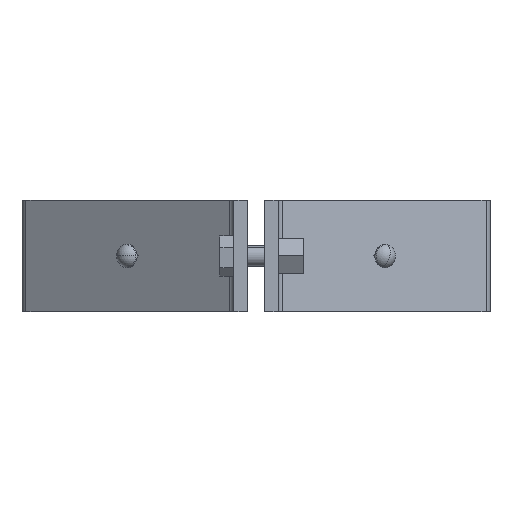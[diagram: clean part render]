
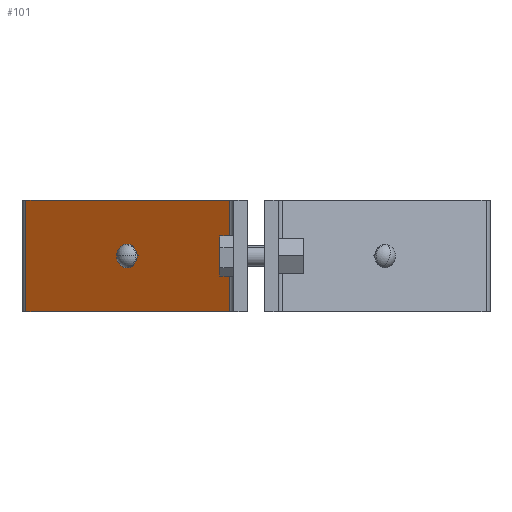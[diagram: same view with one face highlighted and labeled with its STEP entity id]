
A CAD part, left-side view. The second image highlights one B-rep face of the part: STEP entity #101.
In plain terms, the highlighted planar face has unit normal (-0.835, 0.55, 0).
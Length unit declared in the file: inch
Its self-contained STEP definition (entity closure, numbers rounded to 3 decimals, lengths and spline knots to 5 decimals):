
#11 = AXIS2_PLACEMENT_3D ( 'NONE', #1786, #230, #197 ) ;
#21 = DIRECTION ( 'NONE',  ( -0.55, -0.835, 0. ) ) ;
#61 = CARTESIAN_POINT ( 'NONE',  ( 0.92304, 0.2533, -1.575 ) ) ;
#68 = CIRCLE ( 'NONE', #752, 0.1575 ) ;
#89 = CARTESIAN_POINT ( 'NONE',  ( 0.92304, 0.2533, 0. ) ) ;
#101 = ADVANCED_FACE ( 'NONE', ( #1957, #1089 ), #1756, .T. ) ;
#127 = VERTEX_POINT ( 'NONE', #1586 ) ;
#133 = EDGE_LOOP ( 'NONE', ( #1914, #993 ) ) ;
#137 = EDGE_CURVE ( 'NONE', #660, #1700, #2188, .T. ) ;
#197 = DIRECTION ( 'NONE',  ( -0.55, -0.835, 0. ) ) ;
#208 = LINE ( 'NONE', #2084, #973 ) ;
#230 = DIRECTION ( 'NONE',  ( -0.835, 0.55, 0. ) ) ;
#618 = CARTESIAN_POINT ( 'NONE',  ( 0.886, 0.197, 0. ) ) ;
#660 = VERTEX_POINT ( 'NONE', #61 ) ;
#752 = AXIS2_PLACEMENT_3D ( 'NONE', #1266, #2175, #962 ) ;
#850 = DIRECTION ( 'NONE',  ( 0., 0., -1. ) ) ;
#920 = ORIENTED_EDGE ( 'NONE', *, *, #1893, .T. ) ;
#925 = CARTESIAN_POINT ( 'NONE',  ( 2.81746, 3.1327, -1.575 ) ) ;
#950 = LINE ( 'NONE', #618, #1765 ) ;
#962 = DIRECTION ( 'NONE',  ( -0.55, -0.835, 0. ) ) ;
#973 = VECTOR ( 'NONE', #1049, 39.37008 ) ;
#993 = ORIENTED_EDGE ( 'NONE', *, *, #1744, .F. ) ;
#1049 = DIRECTION ( 'NONE',  ( -0.55, -0.835, 0. ) ) ;
#1050 = VECTOR ( 'NONE', #1274, 39.37008 ) ;
#1055 = ORIENTED_EDGE ( 'NONE', *, *, #1386, .T. ) ;
#1059 = CARTESIAN_POINT ( 'NONE',  ( 2.81746, 3.1327, -1.575 ) ) ;
#1089 = FACE_OUTER_BOUND ( 'NONE', #1520, .T. ) ;
#1109 = VECTOR ( 'NONE', #850, 39.37008 ) ;
#1111 = AXIS2_PLACEMENT_3D ( 'NONE', #2097, #2148, #1999 ) ;
#1118 = VERTEX_POINT ( 'NONE', #925 ) ;
#1266 = CARTESIAN_POINT ( 'NONE',  ( 1.87025, 1.693, -0.7875 ) ) ;
#1274 = DIRECTION ( 'NONE',  ( 0., 0., 1. ) ) ;
#1386 = EDGE_CURVE ( 'NONE', #1118, #660, #208, .T. ) ;
#1392 = CARTESIAN_POINT ( 'NONE',  ( 0.92304, 0.2533, 0. ) ) ;
#1437 = ORIENTED_EDGE ( 'NONE', *, *, #137, .T. ) ;
#1520 = EDGE_LOOP ( 'NONE', ( #1619, #920, #1055, #1437 ) ) ;
#1586 = CARTESIAN_POINT ( 'NONE',  ( 1.95682, 1.82458, -0.7875 ) ) ;
#1619 = ORIENTED_EDGE ( 'NONE', *, *, #2118, .F. ) ;
#1700 = VERTEX_POINT ( 'NONE', #1392 ) ;
#1737 = CARTESIAN_POINT ( 'NONE',  ( 1.78368, 1.56142, -0.7875 ) ) ;
#1740 = VERTEX_POINT ( 'NONE', #1823 ) ;
#1744 = EDGE_CURVE ( 'NONE', #127, #1871, #68, .T. ) ;
#1756 = PLANE ( 'NONE',  #11 ) ;
#1765 = VECTOR ( 'NONE', #21, 39.37008 ) ;
#1786 = CARTESIAN_POINT ( 'NONE',  ( 0.886, 0.197, -1.575 ) ) ;
#1823 = CARTESIAN_POINT ( 'NONE',  ( 2.81746, 3.1327, 0. ) ) ;
#1871 = VERTEX_POINT ( 'NONE', #1737 ) ;
#1893 = EDGE_CURVE ( 'NONE', #1740, #1118, #2088, .T. ) ;
#1914 = ORIENTED_EDGE ( 'NONE', *, *, #2214, .F. ) ;
#1957 = FACE_BOUND ( 'NONE', #133, .T. ) ;
#1999 = DIRECTION ( 'NONE',  ( -0.55, -0.835, 0. ) ) ;
#2030 = CIRCLE ( 'NONE', #1111, 0.1575 ) ;
#2084 = CARTESIAN_POINT ( 'NONE',  ( 0.886, 0.197, -1.575 ) ) ;
#2088 = LINE ( 'NONE', #1059, #1109 ) ;
#2097 = CARTESIAN_POINT ( 'NONE',  ( 1.87025, 1.693, -0.7875 ) ) ;
#2118 = EDGE_CURVE ( 'NONE', #1740, #1700, #950, .T. ) ;
#2148 = DIRECTION ( 'NONE',  ( -0.835, 0.55, 0. ) ) ;
#2175 = DIRECTION ( 'NONE',  ( -0.835, 0.55, 0. ) ) ;
#2188 = LINE ( 'NONE', #89, #1050 ) ;
#2214 = EDGE_CURVE ( 'NONE', #1871, #127, #2030, .T. ) ;
